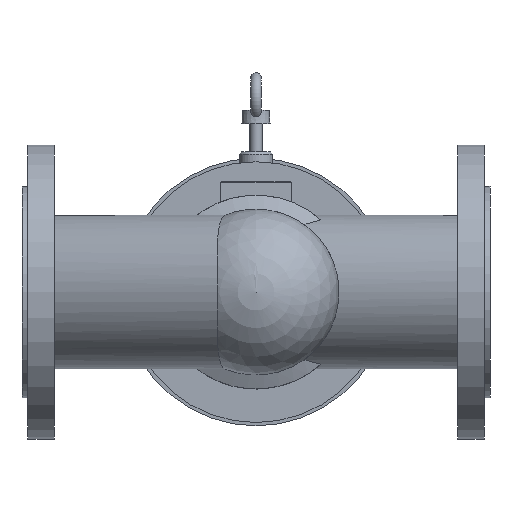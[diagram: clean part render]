
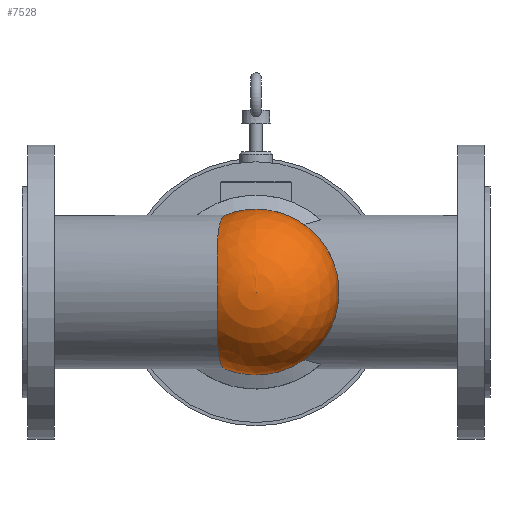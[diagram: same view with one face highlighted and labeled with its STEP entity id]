
A CAD part, front view. The second image highlights one B-rep face of the part: STEP entity #7528.
In plain terms, the highlighted spherical face has radius 62 mm.
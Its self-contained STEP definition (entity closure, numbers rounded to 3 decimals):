
#14=SPHERICAL_SURFACE('',#7999,62.);
#2310=FACE_OUTER_BOUND('',#2747,.T.);
#2747=EDGE_LOOP('',(#6695,#6696,#6697,#6698,#6699,#6700));
#2860=CIRCLE('',#7855,62.);
#2861=CIRCLE('',#7856,62.);
#2917=CIRCLE('',#8000,62.);
#3074=B_SPLINE_CURVE_WITH_KNOTS('',3,(#12622,#12623,#12624,#12625,#12626,
#12627,#12628,#12629,#12630,#12631,#12632,#12633,#12634,#12635,#12636,#12637,
#12638,#12639),.UNSPECIFIED.,.F.,.F.,(4,2,2,2,2,2,2,2,4),(-35.023,
-33.935,-32.846,-31.758,-30.669,
-29.558,-28.447,-27.336,-26.64),
 .UNSPECIFIED.);
#3075=B_SPLINE_CURVE_WITH_KNOTS('',3,(#12640,#12641,#12642,#12643,#12644,
#12645,#12646,#12647,#12648,#12649,#12650,#12651,#12652,#12653,#12654,#12655,
#12656,#12657),.UNSPECIFIED.,.F.,.F.,(4,2,2,2,2,2,2,2,4),(26.64,
27.336,28.447,29.558,30.669,31.758,
32.846,33.935,35.023),.UNSPECIFIED.);
#3583=VERTEX_POINT('',#12366);
#3584=VERTEX_POINT('',#12367);
#3585=VERTEX_POINT('',#12369);
#3624=VERTEX_POINT('',#12621);
#3747=VERTEX_POINT('',#13040);
#4508=EDGE_CURVE('',#3583,#3584,#2860,.T.);
#4509=EDGE_CURVE('',#3584,#3585,#2861,.T.);
#4568=EDGE_CURVE('',#3624,#3585,#3074,.T.);
#4569=EDGE_CURVE('',#3583,#3624,#3075,.T.);
#4754=EDGE_CURVE('',#3584,#3747,#2917,.T.);
#6695=ORIENTED_EDGE('',*,*,#4568,.T.);
#6696=ORIENTED_EDGE('',*,*,#4509,.F.);
#6697=ORIENTED_EDGE('',*,*,#4754,.T.);
#6698=ORIENTED_EDGE('',*,*,#4754,.F.);
#6699=ORIENTED_EDGE('',*,*,#4508,.F.);
#6700=ORIENTED_EDGE('',*,*,#4569,.T.);
#7528=ADVANCED_FACE('',(#2310),#14,.T.);
#7855=AXIS2_PLACEMENT_3D('',#12368,#9137,#9138);
#7856=AXIS2_PLACEMENT_3D('',#12370,#9139,#9140);
#7999=AXIS2_PLACEMENT_3D('',#13039,#9598,#9599);
#8000=AXIS2_PLACEMENT_3D('',#13041,#9600,#9601);
#9137=DIRECTION('center_axis',(0.,1.,0.));
#9138=DIRECTION('ref_axis',(1.,0.,0.));
#9139=DIRECTION('center_axis',(0.,1.,0.));
#9140=DIRECTION('ref_axis',(1.,0.,0.));
#9598=DIRECTION('center_axis',(0.,1.,0.));
#9599=DIRECTION('ref_axis',(0.,0.,-1.));
#9600=DIRECTION('center_axis',(1.,0.,0.));
#9601=DIRECTION('ref_axis',(0.,0.,1.));
#12366=CARTESIAN_POINT('',(-31.41,-167.812,30.351));
#12367=CARTESIAN_POINT('',(-7.855,-167.812,35.));
#12368=CARTESIAN_POINT('Origin',(-7.855,-167.812,-27.));
#12369=CARTESIAN_POINT('',(-31.41,-167.812,-84.351));
#12370=CARTESIAN_POINT('Origin',(-7.855,-167.812,-27.));
#12621=CARTESIAN_POINT('',(-36.485,-222.806,-27.));
#12622=CARTESIAN_POINT('Ctrl Pts',(-36.485,-222.806,-27.));
#12623=CARTESIAN_POINT('Ctrl Pts',(-36.485,-222.806,-30.628));
#12624=CARTESIAN_POINT('Ctrl Pts',(-36.535,-222.415,
-34.362));
#12625=CARTESIAN_POINT('Ctrl Pts',(-36.681,-220.816,
-41.763));
#12626=CARTESIAN_POINT('Ctrl Pts',(-36.771,-219.609,
-45.431));
#12627=CARTESIAN_POINT('Ctrl Pts',(-36.874,-216.481,
-52.456));
#12628=CARTESIAN_POINT('Ctrl Pts',(-36.886,-214.558,
-55.818));
#12629=CARTESIAN_POINT('Ctrl Pts',(-36.771,-210.176,
-62.038));
#12630=CARTESIAN_POINT('Ctrl Pts',(-36.644,-207.716,
-64.894));
#12631=CARTESIAN_POINT('Ctrl Pts',(-36.257,-202.475,
-70.006));
#12632=CARTESIAN_POINT('Ctrl Pts',(-35.981,-199.5,
-72.43));
#12633=CARTESIAN_POINT('Ctrl Pts',(-35.262,-193.054,-76.707));
#12634=CARTESIAN_POINT('Ctrl Pts',(-34.82,-189.583,-78.559));
#12635=CARTESIAN_POINT('Ctrl Pts',(-33.801,-182.369,
-81.538));
#12636=CARTESIAN_POINT('Ctrl Pts',(-33.223,-178.619,
-82.666));
#12637=CARTESIAN_POINT('Ctrl Pts',(-32.22,-172.502,
-83.87));
#12638=CARTESIAN_POINT('Ctrl Pts',(-31.818,-170.142,
-84.183));
#12639=CARTESIAN_POINT('Ctrl Pts',(-31.41,-167.812,-84.351));
#12640=CARTESIAN_POINT('Ctrl Pts',(-31.41,-167.812,30.351));
#12641=CARTESIAN_POINT('Ctrl Pts',(-31.818,-170.142,
30.183));
#12642=CARTESIAN_POINT('Ctrl Pts',(-32.22,-172.502,
29.87));
#12643=CARTESIAN_POINT('Ctrl Pts',(-33.223,-178.619,
28.666));
#12644=CARTESIAN_POINT('Ctrl Pts',(-33.801,-182.369,
27.538));
#12645=CARTESIAN_POINT('Ctrl Pts',(-34.82,-189.583,
24.559));
#12646=CARTESIAN_POINT('Ctrl Pts',(-35.262,-193.054,22.707));
#12647=CARTESIAN_POINT('Ctrl Pts',(-35.981,-199.5,
18.43));
#12648=CARTESIAN_POINT('Ctrl Pts',(-36.257,-202.475,
16.006));
#12649=CARTESIAN_POINT('Ctrl Pts',(-36.644,-207.716,
10.894));
#12650=CARTESIAN_POINT('Ctrl Pts',(-36.771,-210.176,
8.038));
#12651=CARTESIAN_POINT('Ctrl Pts',(-36.886,-214.558,
1.818));
#12652=CARTESIAN_POINT('Ctrl Pts',(-36.874,-216.481,
-1.544));
#12653=CARTESIAN_POINT('Ctrl Pts',(-36.771,-219.609,
-8.569));
#12654=CARTESIAN_POINT('Ctrl Pts',(-36.681,-220.816,
-12.237));
#12655=CARTESIAN_POINT('Ctrl Pts',(-36.535,-222.415,
-19.638));
#12656=CARTESIAN_POINT('Ctrl Pts',(-36.485,-222.806,-23.372));
#12657=CARTESIAN_POINT('Ctrl Pts',(-36.485,-222.806,-27.));
#13039=CARTESIAN_POINT('Origin',(-7.855,-167.812,-27.));
#13040=CARTESIAN_POINT('',(-7.855,-229.812,-27.));
#13041=CARTESIAN_POINT('Origin',(-7.855,-167.812,-27.));
